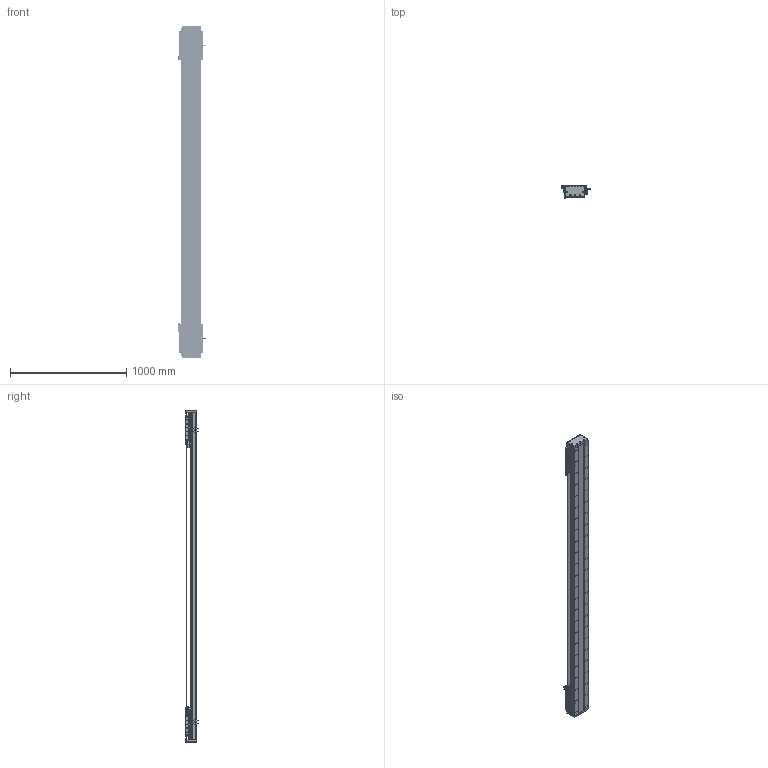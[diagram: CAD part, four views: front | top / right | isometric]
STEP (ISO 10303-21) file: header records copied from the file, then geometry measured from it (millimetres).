
FILE_DESCRIPTION (( 'STEP AP203' ), '1' );
FILE_NAME ('DA-C165-2-C3-T2240-C010-0.2 直线电机.STEP', '2023-06-13T09:18:28', ( '微软用户' ), ( '微软中国' ), 'SwSTEP 2.0', 'SolidWorks 2019', '' );
FILE_SCHEMA (( 'CONFIG_CONTROL_DESIGN' ));
Length unit declared in the file: millimetre
Products named in the file (22): 葩璃 PM-T45^DA-C165-C3-T-C010-0.2-N 眻盄萇儂; 复件 DA95-HXJ-00 缓冲橡胶^DA-C165-C3-T-C010-0.2-N 直线电机; 珨极趙賑雄怢啣C3-wf; 葩璃 CKM03-W075-C1C2-TP-3.0^DA-C165-C3-T-C010-0.2-N 眻盄萇儂; 复件 DA165-GD-DG-H-00 端盖^复件 CU165钢带组件_DA-C165-C3-T-C010-0.2-N 直线电机; 复件 DA165-GDLK-00 钢带拉块^复件 CU165钢带组件_DA-C165-C3-T-C010-0.2-N 直线电机; 复件 DA165-GYP-00 光电感应片^DA-C165-C3-T-C010-0.2-N 直线电机; 复件 DA165-GDYK-00 钢带压块^复件 CU165钢带组件_DA-C165-C3-T-C010-0.2-N 直线电机; 复件 CU165钢带组件^DA-C165-C3-T-C010-0.2-N 直线电机; 复件 CU165 底座^IU-CU165-L 底座导轨_L2820; 复件 DA126-GYP-ZJ-00 中间光电感应片^DA-C165-C3-T-C010-0.2-N 直线电机; 复件 66338-1000-006-00 光电感应块^DA-C165-C3-T-C010-0.2-N 直线电机; 复件 六角薄螺母 M3^DA-C165-C3-T-C010-0.2-N 直线电机_GB_FASTENER_NUT_STNAB M3-C; 葩璃 CKM01-W075-TRL^DA-C165-C3-T-C010-0.2-N 眻盄萇儂; DA-C165-2-C3-T2240-C010-0.2 眻盄萇儂; 复件 DA165-GD-1860-002-00 钢带盖板^复件 CU165钢带组件_DA-C165-C3-T-C010-0.2-N 直线电机; 复件 DMA-010-0.2 读数头^DA-C165-C3-T-C010-0.2-N 直线电机; 葩璃 DA95-GT-T-00^IU-CU165-L 菁釱絳寢_T; 葩璃 PM-Y45^DA-C165-C3-T-C010-0.2-N 眻盄萇儂; 复件 XD-U-02L 磁栅尺^DA-C165-C3-T-C010-0.2-N 直线电机_T; IU-CU165-L 菁釱絳寢; 复件 DKW-HXJ-JY-00 缓冲橡胶^DA-C165-C3-T-C010-0.2-N 直线电机
Assembly tree (45 placements, depth 3):
  DA-C165-2-C3-T2240-C010-0.2 眻盄萇儂
    IU-CU165-L 菁釱絳寢
      复件 CU165 底座^IU-CU165-L 底座导轨_L2820
      葩璃 DA95-GT-T-00^IU-CU165-L 菁釱絳寢_T  x4
    复件 XD-U-02L 磁栅尺^DA-C165-C3-T-C010-0.2-N 直线电机_T
    葩璃 PM-T45^DA-C165-C3-T-C010-0.2-N 眻盄萇儂  x4
    葩璃 CKM01-W075-TRL^DA-C165-C3-T-C010-0.2-N 眻盄萇儂
    复件 CU165钢带组件^DA-C165-C3-T-C010-0.2-N 直线电机
      复件 DA165-GD-DG-H-00 端盖^复件 CU165钢带组件_DA-C165-C3-T-C010-0.2-N 直线电机  x2
      复件 DA165-GDYK-00 钢带压块^复件 CU165钢带组件_DA-C165-C3-T-C010-0.2-N 直线电机  x2
      复件 DA165-GD-1860-002-00 钢带盖板^复件 CU165钢带组件_DA-C165-C3-T-C010-0.2-N 直线电机
      复件 DA165-GDLK-00 钢带拉块^复件 CU165钢带组件_DA-C165-C3-T-C010-0.2-N 直线电机  x2
    复件 DA95-HXJ-00 缓冲橡胶^DA-C165-C3-T-C010-0.2-N 直线电机  x4
    复件 DMA-010-0.2 读数头^DA-C165-C3-T-C010-0.2-N 直线电机  x2
    复件 DA165-GYP-00 光电感应片^DA-C165-C3-T-C010-0.2-N 直线电机  x2
    复件 66338-1000-006-00 光电感应块^DA-C165-C3-T-C010-0.2-N 直线电机
    葩璃 PM-Y45^DA-C165-C3-T-C010-0.2-N 眻盄萇儂
    复件 DA126-GYP-ZJ-00 中间光电感应片^DA-C165-C3-T-C010-0.2-N 直线电机
    葩璃 CKM03-W075-C1C2-TP-3.0^DA-C165-C3-T-C010-0.2-N 眻盄萇儂  x2
    复件 DKW-HXJ-JY-00 缓冲橡胶^DA-C165-C3-T-C010-0.2-N 直线电机  x2
    复件 六角薄螺母 M3^DA-C165-C3-T-C010-0.2-N 直线电机_GB_FASTENER_NUT_STNAB M3-C  x8
    珨极趙賑雄怢啣C3-wf  x2
Bounding box: 247.2 x 111.45 x 2860 mm (x, y, z)
Volume: 18375460.7 mm3; surface area: 5224741.2 mm2
Topology: 121 solids, 221 shells, 6685 faces, 18372 edges, 11454 vertices
Faces by surface type: cylinder 3590, plane 2027, cone 980, torus 80, sphere 8
Entity records: 154672 total; most frequent: CARTESIAN_POINT 41847, ORIENTED_EDGE 23328, DIRECTION 22702, EDGE_CURVE 11664, AXIS2_PLACEMENT_3D 8677, VERTEX_POINT 7608, EDGE_LOOP 5406, VECTOR 5348
